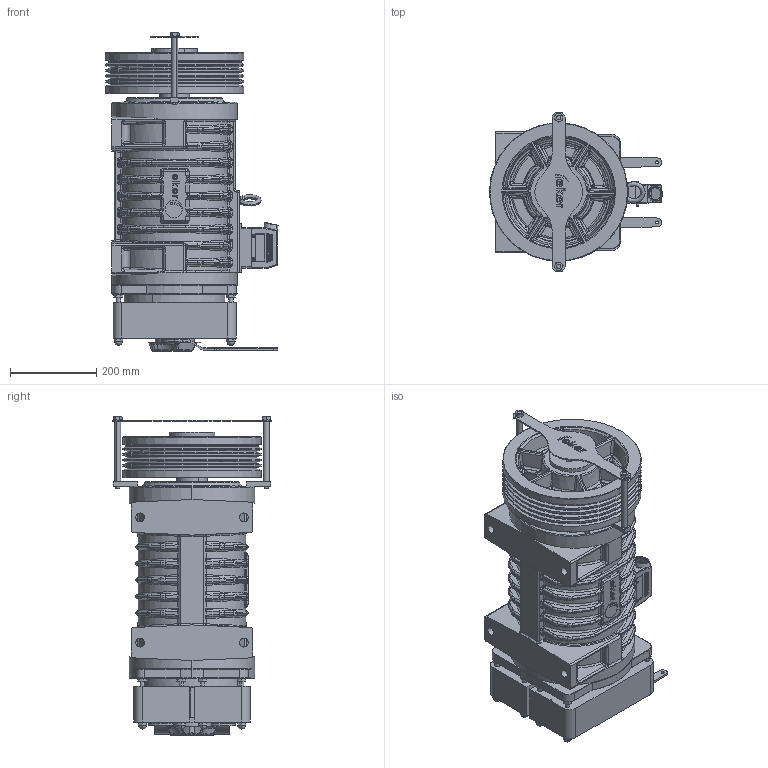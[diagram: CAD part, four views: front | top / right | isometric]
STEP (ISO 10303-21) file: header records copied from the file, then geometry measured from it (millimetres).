
FILE_DESCRIPTION (( 'STEP AP203' ), '1' );
FILE_NAME ('QS-4 (320x5x8) (KF) QS43263160.STEP', '2025-02-03T09:13:15', ( '' ), ( '' ), 'SwSTEP 2.0', 'SolidWorks 2023', '' );
FILE_SCHEMA (( 'CONFIG_CONTROL_DESIGN' ));
Products named in the file (1): QS-4 (320x5x8) (KF) QS43263160
Bounding box: 400.01 x 370 x 737.5 mm (x, y, z)
Volume: 39124352.5 mm3; surface area: 1851811.2 mm2
Topology: 18 solids, 31 shells, 4553 faces, 11068 edges, 6244 vertices
Faces by surface type: cylinder 1316, bspline 1282, plane 877, cone 437, sphere 340, torus 301
Entity records: 198663 total; most frequent: CARTESIAN_POINT 104591, ORIENTED_EDGE 21170, DIRECTION 17842, EDGE_CURVE 10585, AXIS2_PLACEMENT_3D 7346, VERTEX_POINT 6232, EDGE_LOOP 4831, ADVANCED_FACE 4553
